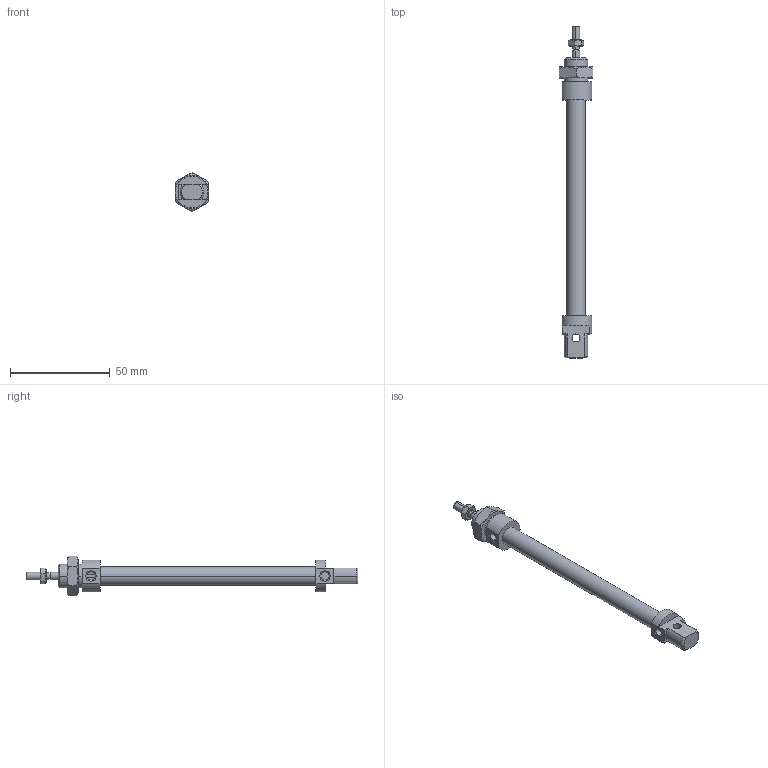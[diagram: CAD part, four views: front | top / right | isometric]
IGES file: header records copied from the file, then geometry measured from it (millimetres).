
Global section: file name: No Iges File Name specified; native system: AutoDesk Inventor R6.0; preprocessor: AutoDesk Inventor Iges Exporter R6.0; author: No Author specified; organization: No Organization specified; date: 20030407.190844; units: millimetre
Bounding box: 17 x 166 x 19.63 mm (x, y, z)
Volume: 13678.4 mm3; surface area: 9389.5 mm2
Topology: 4 solids, 4 shells, 117 faces, 261 edges, 158 vertices
Faces by surface type: cone 38, plane 34, bspline 21, cylinder 18, revolution 6
